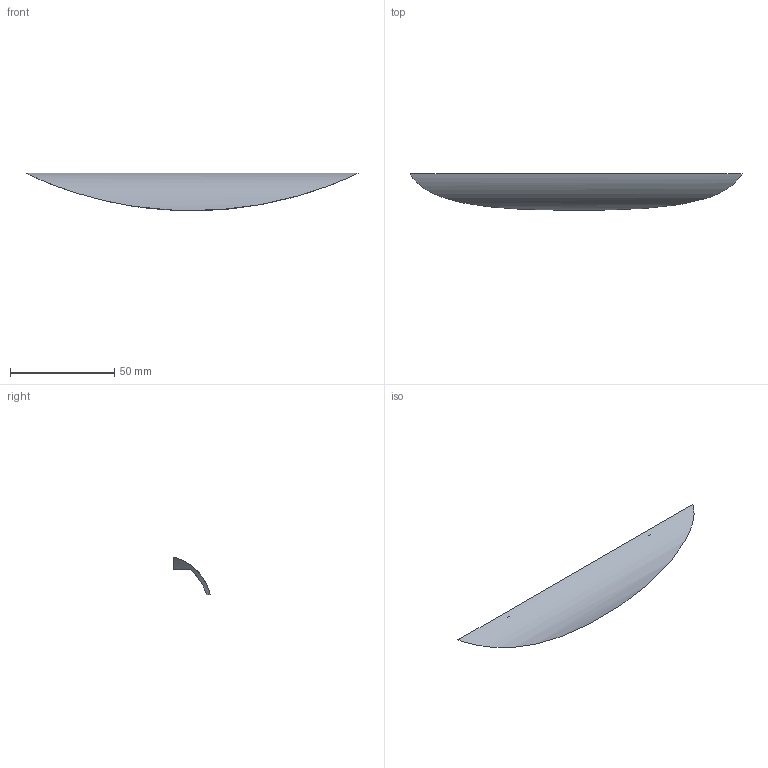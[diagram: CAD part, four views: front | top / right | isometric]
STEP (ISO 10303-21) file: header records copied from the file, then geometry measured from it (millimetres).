
FILE_DESCRIPTION( ( '' ), '1' );
FILE_NAME( 'D:/1.AUTOCAD EXPORT/Group 10/sheet_10_1/9070123.stp', '2013-10-22T04:33:27', ( '' ), ( '' ), ' ', ' ', ' ' );
FILE_SCHEMA( ( 'automotive_design' ) );
Length unit declared in the file: millimetre
Products named in the file (1): 1
Bounding box: 159 x 17.4 x 17.99 mm (x, y, z)
Volume: 7779.3 mm3; surface area: 6868.8 mm2
Topology: 1 solids, 1 shells, 11 faces, 21 edges, 14 vertices
Faces by surface type: cylinder 7, plane 4
Entity records: 682 total; most frequent: CARTESIAN_POINT 161, DIRECTION 53, STYLED_ITEM 47, PRESENTATION_STYLE_ASSIGNMENT 47, COLOUR_RGB 47, ORIENTED_EDGE 42, AXIS2_PLACEMENT_3D 22, EDGE_CURVE 21
